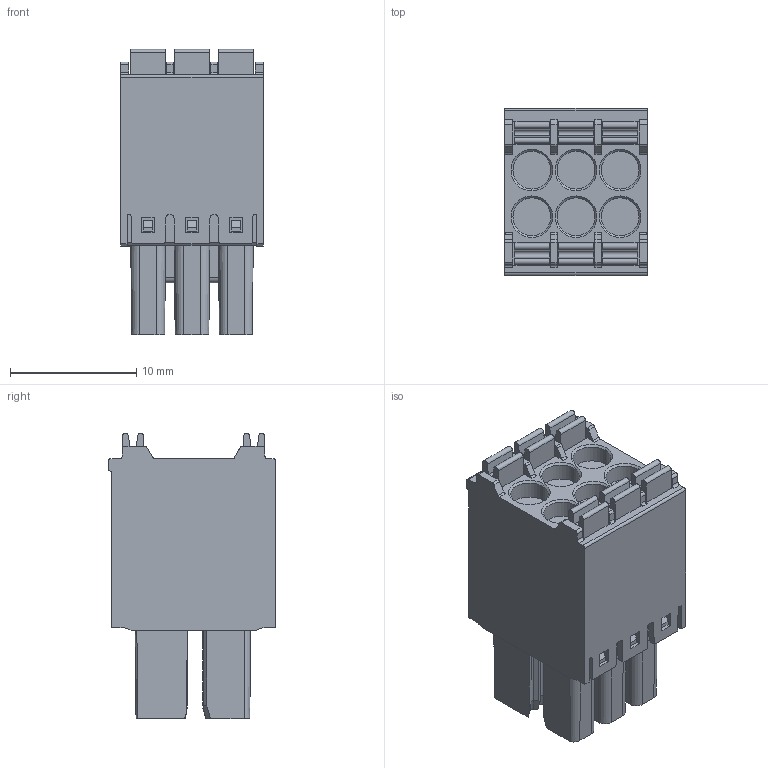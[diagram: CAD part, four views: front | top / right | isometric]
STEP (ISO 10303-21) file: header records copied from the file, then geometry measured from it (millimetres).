
FILE_DESCRIPTION((''),'2;1');
FILE_NAME('3PIN_SW0001','2019-06-04T',('zhenbing.lai'),(''),'CREO PARAMETRIC BY PTC INC, 2016260','CREO PARAMETRIC BY PTC INC, 2016260','');
FILE_SCHEMA(('CONFIG_CONTROL_DESIGN'));
Length unit declared in the file: millimetre
Products named in the file (1): 3PIN_SW0001
Bounding box: 11.3 x 13.25 x 22.6 mm (x, y, z)
Volume: 2358.6 mm3; surface area: 2089 mm2
Topology: 1 solids, 4 shells, 567 faces, 1533 edges, 1012 vertices
Faces by surface type: plane 372, cylinder 111, cone 84
Entity records: 18203 total; most frequent: CARTESIAN_POINT 3736, ORIENTED_EDGE 3066, DIRECTION 2905, EDGE_CURVE 1533, VECTOR 1139, LINE 1139, VERTEX_POINT 1012, AXIS2_PLACEMENT_3D 883
